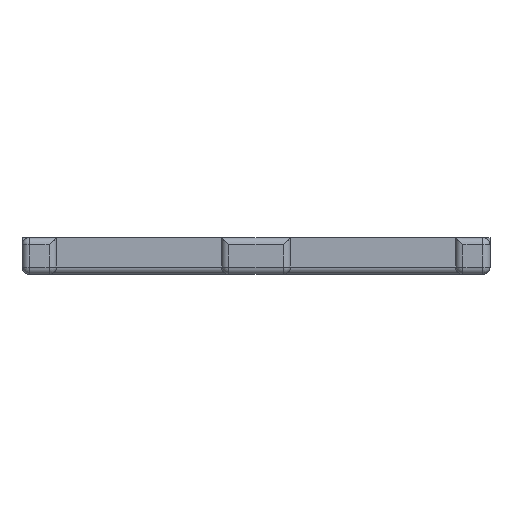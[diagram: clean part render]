
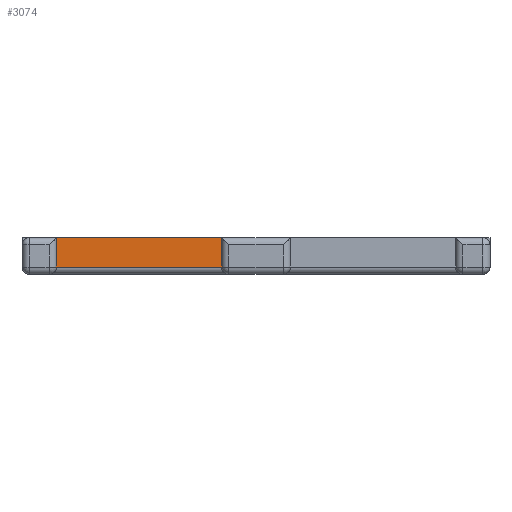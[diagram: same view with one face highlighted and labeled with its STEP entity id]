
A CAD part, front view. The second image highlights one B-rep face of the part: STEP entity #3074.
In plain terms, the highlighted planar face has unit normal (0, -1, 0).
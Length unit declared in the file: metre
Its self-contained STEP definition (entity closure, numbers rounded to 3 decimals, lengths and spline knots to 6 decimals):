
#610=ORIENTED_EDGE('',*,*,#1517,.T.);
#611=ORIENTED_EDGE('',*,*,#1518,.T.);
#612=ORIENTED_EDGE('',*,*,#1519,.F.);
#613=ORIENTED_EDGE('',*,*,#1520,.F.);
#1517=EDGE_CURVE('',#1962,#1965,#2220,.T.);
#1518=EDGE_CURVE('',#1965,#1966,#2221,.T.);
#1519=EDGE_CURVE('',#1967,#1966,#2222,.T.);
#1520=EDGE_CURVE('',#1962,#1967,#2223,.T.);
#1962=VERTEX_POINT('',#5153);
#1965=VERTEX_POINT('',#5158);
#1966=VERTEX_POINT('',#5162);
#1967=VERTEX_POINT('',#5164);
#2220=LINE('',#5159,#2456);
#2221=LINE('',#5161,#2457);
#2222=LINE('',#5163,#2458);
#2223=LINE('',#5165,#2459);
#2456=VECTOR('',#3961,1.);
#2457=VECTOR('',#3964,1.);
#2458=VECTOR('',#3965,1.);
#2459=VECTOR('',#3966,1.);
#2548=EDGE_LOOP('',(#610,#611,#612,#613));
#2786=FACE_BOUND('',#2548,.T.);
#3024=PLANE('',#3312);
#3074=ADVANCED_FACE('',(#2786),#3024,.F.);
#3312=AXIS2_PLACEMENT_3D('',#5160,#3962,#3963);
#3961=DIRECTION('',(0.,0.,-1.));
#3962=DIRECTION('',(0.,1.,0.));
#3963=DIRECTION('',(-1.,0.,0.));
#3964=DIRECTION('',(1.,0.,0.));
#3965=DIRECTION('',(0.,0.,-1.));
#3966=DIRECTION('',(1.,0.,0.));
#5153=CARTESIAN_POINT('',(-0.0272,-0.025,0.005));
#5158=CARTESIAN_POINT('',(-0.0272,-0.025,0.001));
#5159=CARTESIAN_POINT('',(-0.0272,-0.025,0.005));
#5160=CARTESIAN_POINT('',(-0.021575,-0.025,0.005));
#5161=CARTESIAN_POINT('',(-0.021575,-0.025,0.001));
#5162=CARTESIAN_POINT('',(-0.0047,-0.025,0.001));
#5163=CARTESIAN_POINT('',(-0.0047,-0.025,0.005));
#5164=CARTESIAN_POINT('',(-0.0047,-0.025,0.005));
#5165=CARTESIAN_POINT('',(-0.021575,-0.025,0.005));
